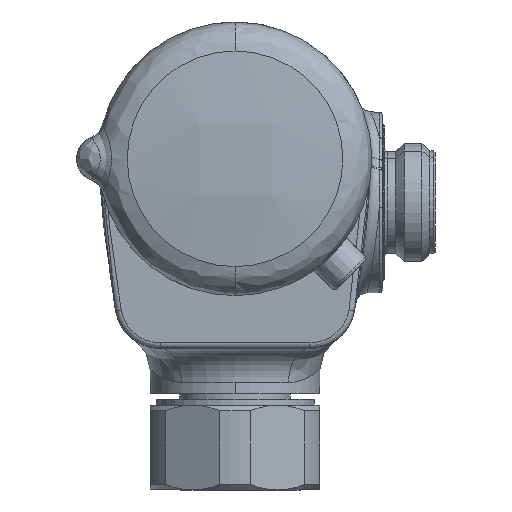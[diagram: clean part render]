
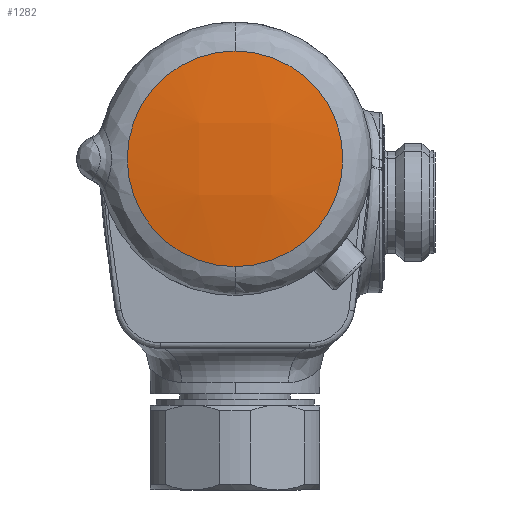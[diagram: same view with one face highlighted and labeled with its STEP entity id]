
A CAD part, left-side view. The second image highlights one B-rep face of the part: STEP entity #1282.
In plain terms, the highlighted free-form (B-spline) face has degree [3, 3] with [4, 4] control points.
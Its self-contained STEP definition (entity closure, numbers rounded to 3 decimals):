
#611 = CARTESIAN_POINT ( 'NONE',  ( -179.407, 172.441, 382.408 ) ) ;
#650 = CARTESIAN_POINT ( 'NONE',  ( -179.413, 172.44, 369.421 ) ) ;
#691 = CARTESIAN_POINT ( 'NONE',  ( -179.419, 211.352, 382.408 ) ) ;
#865 = CARTESIAN_POINT ( 'NONE',  ( -178.985, 191.937, 375.856 ) ) ;
#1214 =( BOUNDED_SURFACE ( )  B_SPLINE_SURFACE ( 3, 3, ( 
 ( #8633, #7681, #11275, #5899 ),
 ( #650, #3319, #2343, #5038 ),
 ( #611, #6821, #9526, #691 ),
 ( #7793, #8670, #3359, #1430 ) ),
 .UNSPECIFIED., .F., .F., .T. ) 
 B_SPLINE_SURFACE_WITH_KNOTS ( ( 4, 4 ),
 ( 4, 4 ),
 ( 0., 1. ),
 ( 0., 1. ),
 .UNSPECIFIED. ) 
 GEOMETRIC_REPRESENTATION_ITEM ( )  RATIONAL_B_SPLINE_SURFACE ( (
 ( 1., 0.993, 0.993, 1.),
 ( 0.993, 0.985, 0.985, 0.993),
 ( 0.993, 0.985, 0.985, 0.993),
 ( 1., 0.993, 0.993, 1.) ) ) 
 REPRESENTATION_ITEM ( '' )  SURFACE ( )  );
#1282 = ADVANCED_FACE ( 'NONE', ( #4362 ), #1214, .T. ) ;
#1285 = CARTESIAN_POINT ( 'NONE',  ( -178.985, 191.937, 375.856 ) ) ;
#1430 = CARTESIAN_POINT ( 'NONE',  ( -177.503, 211.064, 395.249 ) ) ;
#1692 = AXIS2_PLACEMENT_3D ( 'NONE', #865, #3524, #7071 ) ;
#2343 = CARTESIAN_POINT ( 'NONE',  ( -181.369, 198.43, 369.421 ) ) ;
#2356 = CARTESIAN_POINT ( 'NONE',  ( -178.985, 191.937, 356.805 ) ) ;
#2452 = EDGE_CURVE ( 'NONE', #9071, #11360, #3225, .T. ) ;
#3225 = CIRCLE ( 'NONE', #8544, 19.051 ) ;
#3319 = CARTESIAN_POINT ( 'NONE',  ( -181.365, 185.362, 369.421 ) ) ;
#3359 = CARTESIAN_POINT ( 'NONE',  ( -179.419, 198.334, 395.249 ) ) ;
#3524 = DIRECTION ( 'NONE',  ( 1., 0., 0. ) ) ;
#4362 = FACE_OUTER_BOUND ( 'NONE', #7582, .T. ) ;
#4783 = DIRECTION ( 'NONE',  ( 0., 0., -1. ) ) ;
#5038 = CARTESIAN_POINT ( 'NONE',  ( -179.425, 211.353, 369.421 ) ) ;
#5899 = CARTESIAN_POINT ( 'NONE',  ( -177.52, 211.067, 356.577 ) ) ;
#6487 = ORIENTED_EDGE ( 'NONE', *, *, #10615, .F. ) ;
#6821 = CARTESIAN_POINT ( 'NONE',  ( -181.359, 185.362, 382.408 ) ) ;
#7071 = DIRECTION ( 'NONE',  ( 0., 0., -1. ) ) ;
#7582 = EDGE_LOOP ( 'NONE', ( #6487, #11227 ) ) ;
#7624 = CIRCLE ( 'NONE', #1692, 19.051 ) ;
#7681 = CARTESIAN_POINT ( 'NONE',  ( -179.432, 185.459, 356.577 ) ) ;
#7793 = CARTESIAN_POINT ( 'NONE',  ( -177.491, 172.731, 395.249 ) ) ;
#7955 = CARTESIAN_POINT ( 'NONE',  ( -178.985, 191.937, 394.907 ) ) ;
#8544 = AXIS2_PLACEMENT_3D ( 'NONE', #1285, #10094, #4783 ) ;
#8633 = CARTESIAN_POINT ( 'NONE',  ( -177.508, 172.728, 356.577 ) ) ;
#8670 = CARTESIAN_POINT ( 'NONE',  ( -179.415, 185.46, 395.249 ) ) ;
#9071 = VERTEX_POINT ( 'NONE', #7955 ) ;
#9526 = CARTESIAN_POINT ( 'NONE',  ( -181.364, 198.43, 382.408 ) ) ;
#10094 = DIRECTION ( 'NONE',  ( 1., 0., 0. ) ) ;
#10615 = EDGE_CURVE ( 'NONE', #11360, #9071, #7624, .T. ) ;
#11227 = ORIENTED_EDGE ( 'NONE', *, *, #2452, .F. ) ;
#11275 = CARTESIAN_POINT ( 'NONE',  ( -179.436, 198.334, 356.577 ) ) ;
#11360 = VERTEX_POINT ( 'NONE', #2356 ) ;
